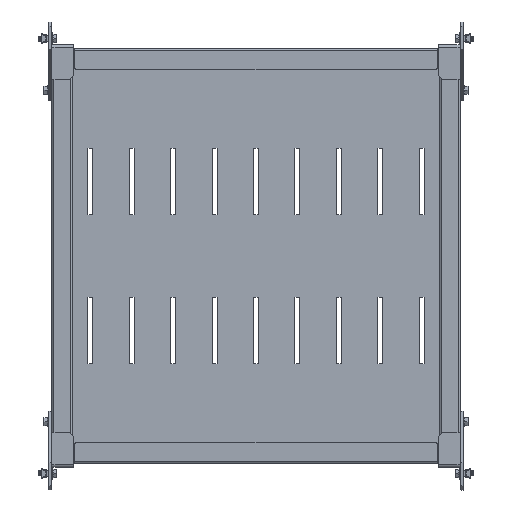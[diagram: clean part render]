
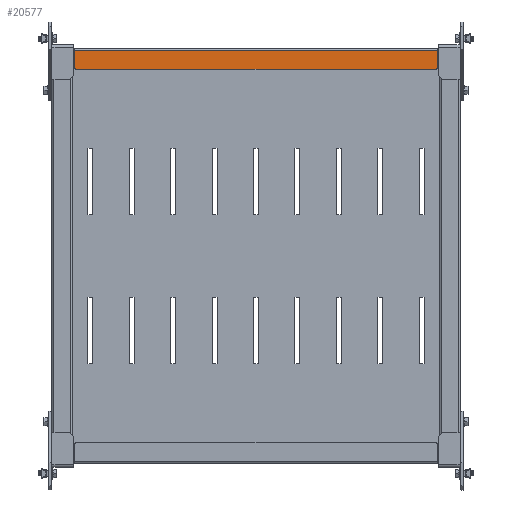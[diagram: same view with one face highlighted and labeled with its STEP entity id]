
A CAD part, front view. The second image highlights one B-rep face of the part: STEP entity #20577.
In plain terms, the highlighted planar face has unit normal (0, -1, 0).
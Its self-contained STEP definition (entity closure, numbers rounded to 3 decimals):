
#884 = DIRECTION ( 'NONE',  ( -1., 0., 0. ) ) ;
#1656 = VECTOR ( 'NONE', #39168, 1000. ) ;
#3570 = LINE ( 'NONE', #52617, #24027 ) ;
#3697 = AXIS2_PLACEMENT_3D ( 'NONE', #33596, #27934, #43570 ) ;
#5306 = VERTEX_POINT ( 'NONE', #58686 ) ;
#6190 = CARTESIAN_POINT ( 'NONE',  ( 228.5, -45., 216.5 ) ) ;
#7928 = DIRECTION ( 'NONE',  ( 0., -1., 0. ) ) ;
#8962 = EDGE_CURVE ( 'NONE', #69366, #5306, #24606, .T. ) ;
#10126 = AXIS2_PLACEMENT_3D ( 'NONE', #6190, #11143, #884 ) ;
#10599 = EDGE_LOOP ( 'NONE', ( #45992, #35063, #70278, #57450, #43188, #49306 ) ) ;
#11110 = VERTEX_POINT ( 'NONE', #48209 ) ;
#11143 = DIRECTION ( 'NONE',  ( 0., -1., 0. ) ) ;
#11953 = FACE_OUTER_BOUND ( 'NONE', #10599, .T. ) ;
#12385 = CIRCLE ( 'NONE', #27087, 3. ) ;
#13032 = EDGE_CURVE ( 'NONE', #49003, #5306, #39775, .T. ) ;
#18568 = CARTESIAN_POINT ( 'NONE',  ( 0., -45., -219.5 ) ) ;
#20577 = ADVANCED_FACE ( 'NONE', ( #11953 ), #22588, .F. ) ;
#21312 = VERTEX_POINT ( 'NONE', #24556 ) ;
#22588 = PLANE ( 'NONE',  #3697 ) ;
#23964 = EDGE_CURVE ( 'NONE', #49003, #21312, #24263, .T. ) ;
#24027 = VECTOR ( 'NONE', #41551, 1000. ) ;
#24263 = LINE ( 'NONE', #40574, #54688 ) ;
#24556 = CARTESIAN_POINT ( 'NONE',  ( 228.5, -45., 219.5 ) ) ;
#24606 = LINE ( 'NONE', #18568, #1656 ) ;
#27087 = AXIS2_PLACEMENT_3D ( 'NONE', #50597, #7928, #34206 ) ;
#27179 = CARTESIAN_POINT ( 'NONE',  ( 247.9, -45., 219.5 ) ) ;
#27934 = DIRECTION ( 'NONE',  ( 0., 1., 0. ) ) ;
#32464 = VERTEX_POINT ( 'NONE', #47547 ) ;
#33596 = CARTESIAN_POINT ( 'NONE',  ( 0., -45., 0. ) ) ;
#34206 = DIRECTION ( 'NONE',  ( -1., 0., 0. ) ) ;
#35063 = ORIENTED_EDGE ( 'NONE', *, *, #57185, .T. ) ;
#39168 = DIRECTION ( 'NONE',  ( 1., 0., 0. ) ) ;
#39775 = LINE ( 'NONE', #46163, #65954 ) ;
#40574 = CARTESIAN_POINT ( 'NONE',  ( 0., -45., 219.5 ) ) ;
#41128 = EDGE_CURVE ( 'NONE', #11110, #69366, #12385, .T. ) ;
#41551 = DIRECTION ( 'NONE',  ( 0., 0., -1. ) ) ;
#43188 = ORIENTED_EDGE ( 'NONE', *, *, #8962, .T. ) ;
#43570 = DIRECTION ( 'NONE',  ( -1., 0., 0. ) ) ;
#45918 = DIRECTION ( 'NONE',  ( -1., 0., 0. ) ) ;
#45992 = ORIENTED_EDGE ( 'NONE', *, *, #23964, .T. ) ;
#46163 = CARTESIAN_POINT ( 'NONE',  ( 247.9, -45., -219.5 ) ) ;
#47547 = CARTESIAN_POINT ( 'NONE',  ( 225.5, -45., 216.5 ) ) ;
#48209 = CARTESIAN_POINT ( 'NONE',  ( 225.5, -45., -216.5 ) ) ;
#49003 = VERTEX_POINT ( 'NONE', #27179 ) ;
#49306 = ORIENTED_EDGE ( 'NONE', *, *, #13032, .F. ) ;
#50597 = CARTESIAN_POINT ( 'NONE',  ( 228.5, -45., -216.5 ) ) ;
#52617 = CARTESIAN_POINT ( 'NONE',  ( 225.5, -45., 0. ) ) ;
#54375 = CIRCLE ( 'NONE', #10126, 3. ) ;
#54688 = VECTOR ( 'NONE', #45918, 1000. ) ;
#56854 = DIRECTION ( 'NONE',  ( 0., 0., -1. ) ) ;
#57185 = EDGE_CURVE ( 'NONE', #21312, #32464, #54375, .T. ) ;
#57450 = ORIENTED_EDGE ( 'NONE', *, *, #41128, .T. ) ;
#57924 = EDGE_CURVE ( 'NONE', #32464, #11110, #3570, .T. ) ;
#58119 = CARTESIAN_POINT ( 'NONE',  ( 228.5, -45., -219.5 ) ) ;
#58686 = CARTESIAN_POINT ( 'NONE',  ( 247.9, -45., -219.5 ) ) ;
#65954 = VECTOR ( 'NONE', #56854, 1000. ) ;
#69366 = VERTEX_POINT ( 'NONE', #58119 ) ;
#70278 = ORIENTED_EDGE ( 'NONE', *, *, #57924, .T. ) ;
